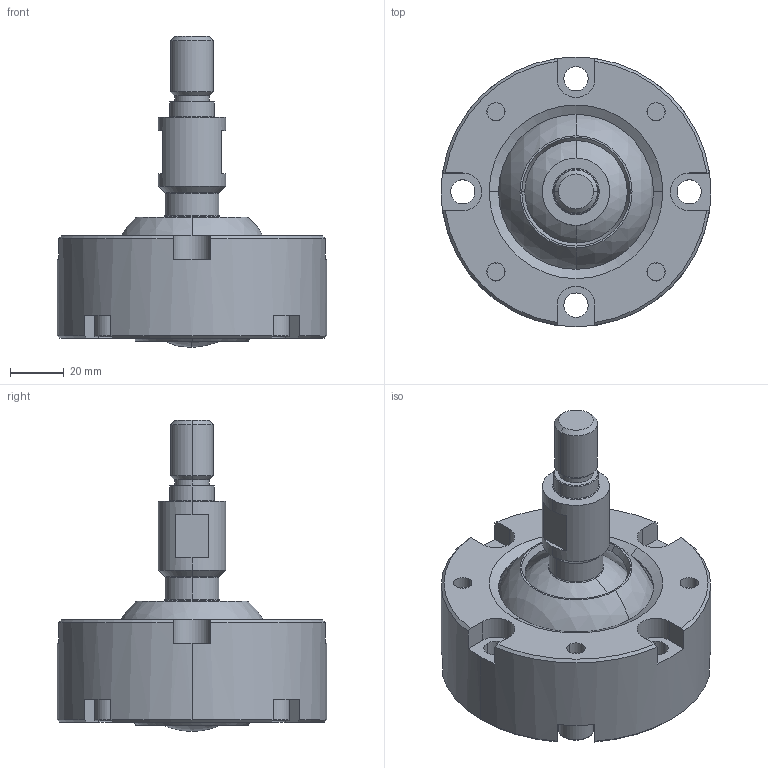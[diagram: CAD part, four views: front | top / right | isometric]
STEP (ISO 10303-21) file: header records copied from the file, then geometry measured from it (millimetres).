
FILE_DESCRIPTION (( 'STEP AP203' ), '1' );
FILE_NAME ('SRJ032CP.STEP', '2023-03-30T08:38:34', ( '' ), ( '' ), 'SwSTEP 2.0', 'SolidWorks 2023', '' );
FILE_SCHEMA (( 'CONFIG_CONTROL_DESIGN' ));
Length unit declared in the file: millimetre
Products named in the file (1): SRJ032CP
Bounding box: 100 x 100 x 115.4 mm (x, y, z)
Volume: 289329.2 mm3; surface area: 71886.4 mm2
Topology: 7 solids, 7 shells, 237 faces, 580 edges, 356 vertices
Faces by surface type: plane 102, cylinder 64, cone 41, torus 22, sphere 8
Entity records: 6908 total; most frequent: DIRECTION 1289, CARTESIAN_POINT 1182, ORIENTED_EDGE 1104, EDGE_CURVE 552, AXIS2_PLACEMENT_3D 515, VERTEX_POINT 344, CIRCLE 277, EDGE_LOOP 272
